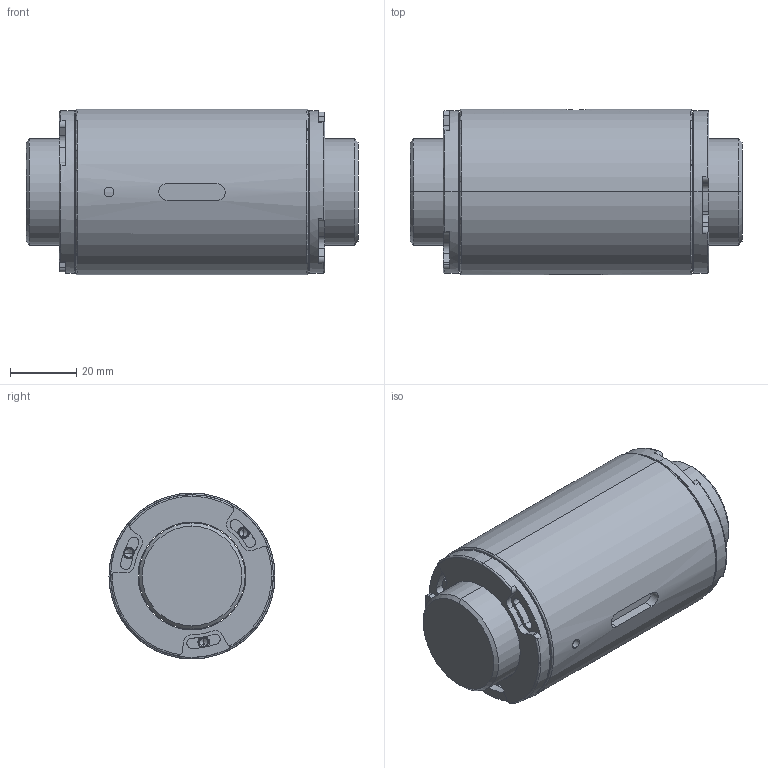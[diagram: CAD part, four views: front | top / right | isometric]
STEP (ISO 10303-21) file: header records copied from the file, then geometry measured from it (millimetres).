
FILE_DESCRIPTION (( 'STEP AP203' ), '1' );
FILE_NAME ('SCHR03220B1-C.STEP', '2020-06-22T06:07:38', ( '' ), ( '' ), 'SwSTEP 2.0', 'SolidWorks 2013', '' );
FILE_SCHEMA (( 'CONFIG_CONTROL_DESIGN' ));
Length unit declared in the file: millimetre
Products named in the file (1): SCHR03220B1-C
Bounding box: 100 x 50 x 50 mm (x, y, z)
Volume: 164335.1 mm3; surface area: 35920.1 mm2
Topology: 2 solids, 2 shells, 218 faces, 543 edges, 337 vertices
Faces by surface type: cylinder 115, plane 62, cone 28, torus 13
Entity records: 8514 total; most frequent: CARTESIAN_POINT 3090, DIRECTION 1243, ORIENTED_EDGE 1062, EDGE_CURVE 531, AXIS2_PLACEMENT_3D 526, VERTEX_POINT 337, CIRCLE 307, EDGE_LOOP 242
